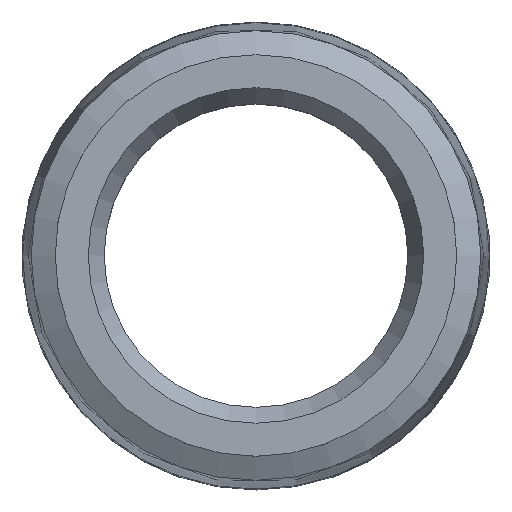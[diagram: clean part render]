
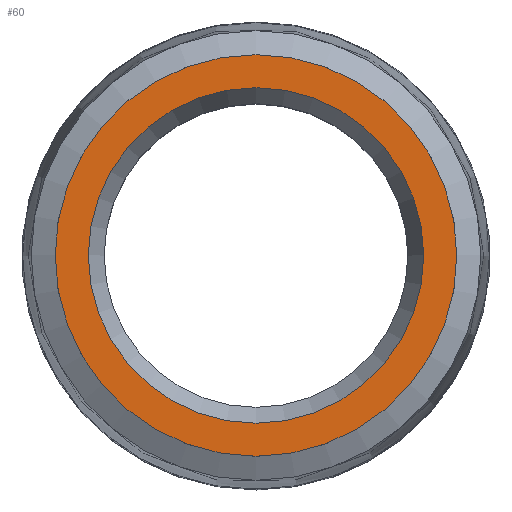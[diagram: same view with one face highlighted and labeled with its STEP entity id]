
A CAD part, top view. The second image highlights one B-rep face of the part: STEP entity #60.
In plain terms, the highlighted planar face has unit normal (0, 0, 1).
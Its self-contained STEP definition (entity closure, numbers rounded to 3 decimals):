
#60 = ADVANCED_FACE( '', ( #132, #133 ), #134, .T. );
#132 = FACE_BOUND( '', #235, .T. );
#133 = FACE_OUTER_BOUND( '', #236, .T. );
#134 = PLANE( '', #237 );
#235 = EDGE_LOOP( '', ( #331 ) );
#236 = EDGE_LOOP( '', ( #332 ) );
#237 = AXIS2_PLACEMENT_3D( '', #333, #334, #335 );
#331 = ORIENTED_EDGE( '', *, *, #504, .F. );
#332 = ORIENTED_EDGE( '', *, *, #505, .T. );
#333 = CARTESIAN_POINT( '', ( 0., 0., 0. ) );
#334 = DIRECTION( '', ( 0., 0., 1. ) );
#335 = DIRECTION( '', ( 1., 0., 0. ) );
#504 = EDGE_CURVE( '', #571, #571, #572, .F. );
#505 = EDGE_CURVE( '', #573, #573, #574, .T. );
#571 = VERTEX_POINT( '', #664 );
#572 = CIRCLE( '', #665, 6.077 );
#573 = VERTEX_POINT( '', #666 );
#574 = CIRCLE( '', #667, 7.275 );
#664 = CARTESIAN_POINT( '', ( 6.077, 0., 0. ) );
#665 = AXIS2_PLACEMENT_3D( '', #805, #806, #807 );
#666 = CARTESIAN_POINT( '', ( -7.275, 0., 0. ) );
#667 = AXIS2_PLACEMENT_3D( '', #808, #809, #810 );
#805 = CARTESIAN_POINT( '', ( 0., 0., 0. ) );
#806 = DIRECTION( '', ( 0., 0., -1. ) );
#807 = DIRECTION( '', ( 1., 0., 0. ) );
#808 = CARTESIAN_POINT( '', ( 0., 0., 0. ) );
#809 = DIRECTION( '', ( 0., 0., 1. ) );
#810 = DIRECTION( '', ( -1., 0., 0. ) );
